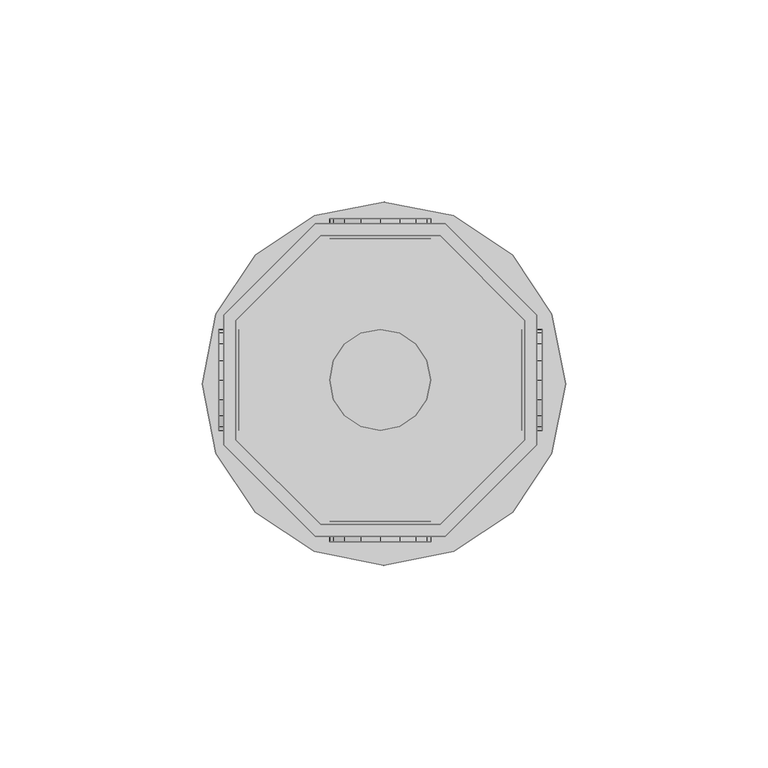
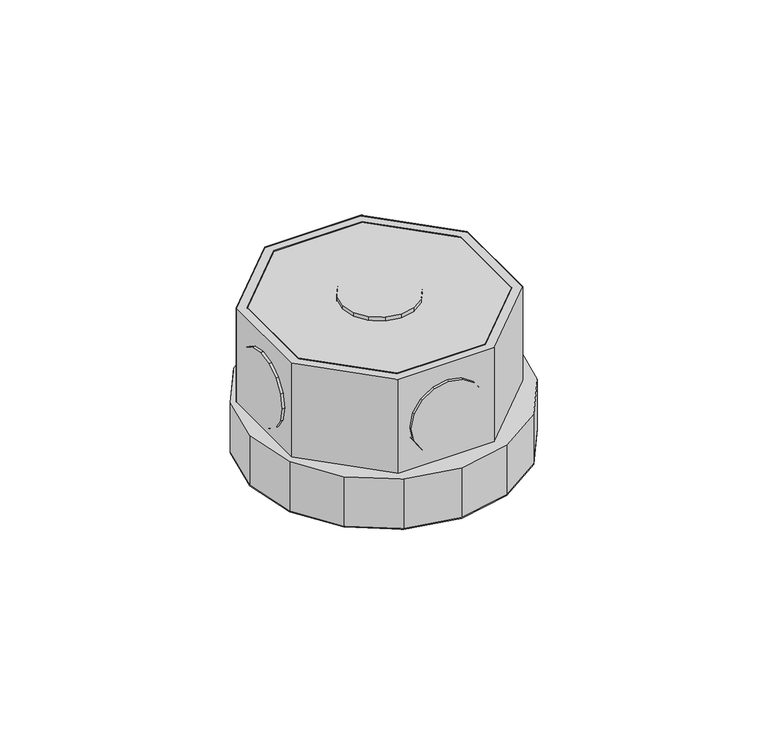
"""IFC4 building model written with IfcOpenShell, lengths in millimetres: light fixture geometry,  212862 :  212862."""

from ifc_helpers import new_model, si_unit, origin, place, context, project, spatial, triangles, source, transform, mapped, element, save


def light_fixture_f4f31ad3(model_context):
    return source(origin(), model_context, "Body", "Tessellation", [
        triangles([(24994.9999146, 9491.2497345, 2924.5999741), (24965.3993958, 9491.2497345, 2975.400071), (24965.3993958, 9491.2497345, 2924.5999741), (24994.9999146, 9491.2497345, 2975.400071), (24996.1998413, 9416.7502121, 2924.5999741), (24964.0994751, 9416.7502121, 2975.400071), (24964.0994751, 9416.7502121, 2924.5999741), (24996.1998413, 9416.7502121, 2975.400071), (24944.4006775, 9470.2498535, 2975.400071), (24944.4006775, 9470.2498535, 2924.5999741), (25018.9007813, 9439.4499893, 2924.5999741), (25018.9007813, 9439.4499893, 2975.400071), (24944.4006775, 9440.6499161, 2975.400071), (24944.4006775, 9440.6499161, 2924.5999741), (25018.9007813, 9471.5497742, 2924.5999741), (25018.9007813, 9471.5497742, 2975.400071), (24965.3993958, 9419.750029, 2975.400071), (24965.3993958, 9419.750029, 2924.5999741), (24996.1998413, 9494.2501328, 2924.5999741), (24996.1998413, 9494.2501328, 2975.400071), (24994.9999146, 9419.750029, 2924.5999741), (24994.9999146, 9419.750029, 2975.400071), (24964.0994751, 9494.2501328, 2975.400071), (24964.0994751, 9494.2501328, 2924.5999741), (25015.9009644, 9440.6499161, 2924.5999741), (25015.9009644, 9440.6499161, 2975.400071), (24941.4008606, 9471.5497742, 2975.400071), (24941.4008606, 9471.5497742, 2924.5999741), (24941.4008606, 9439.4499893, 2975.400071), (25015.9009644, 9470.2498535, 2975.400071), (25015.9009644, 9470.2498535, 2924.5999741), (24941.4008606, 9439.4499893, 2924.5999741), (24944.4006775, 9440.6499161, 2972.3999634), (24965.3993958, 9419.750029, 2972.3999634), (24994.9999146, 9419.750029, 2972.3999634), (25015.9009644, 9440.6499161, 2972.3999634), (25015.9009644, 9470.2498535, 2972.3999634), (24994.9999146, 9491.2497345, 2972.3999634), (24965.3993958, 9491.2497345, 2972.3999634), (24944.4006775, 9470.2498535, 2972.3999634), (24941.4008606, 9471.5497742, 2942.4000504), (24964.0994751, 9494.2501328, 2942.4000504), (24996.1998413, 9494.2501328, 2942.4000504), (25018.9007813, 9471.5497742, 2942.4000504), (25018.9007813, 9439.4499893, 2942.4000504), (24996.1998413, 9416.7502121, 2942.4000504), (24964.0994751, 9416.7502121, 2942.4000504), (24941.4008606, 9439.4499893, 2942.4000504), (24963.7994934, 9413.0498566, 2942.4000504), (24939.5009766, 9437.3501175, 2942.4000504), (24949.2003845, 9422.7498459, 2942.4000504), (24936.0988586, 9454.5502304, 2942.4000504), (24939.5009766, 9471.8497559, 2942.4000504), (24949.2003845, 9486.4500275, 2942.4000504), (24963.7994934, 9496.1500168, 2942.4000504), (24981.1007629, 9499.5498093, 2942.4000504), (24998.2997131, 9496.1500168, 2942.4000504), (25022.6005554, 9471.8497559, 2942.4000504), (25012.9011475, 9486.4500275, 2942.4000504), (24981.1007629, 9409.5500702, 2942.4000504), (24998.2997131, 9413.0498566, 2942.4000504), (25012.9011475, 9422.7498459, 2942.4000504), (25022.6005554, 9437.3501175, 2942.4000504), (25026.1003418, 9454.5502304, 2942.4000504), (24939.5009766, 9437.3501175, 2924.5999741), (24963.7994934, 9413.0498566, 2924.5999741), (24949.2003845, 9422.7498459, 2924.5999741), (24936.0988586, 9454.5502304, 2924.5999741), (24939.5009766, 9471.8497559, 2924.5999741), (24949.2003845, 9486.4500275, 2924.5999741), (24963.7994934, 9496.1500168, 2924.5999741), (24981.1007629, 9499.5498093, 2924.5999741), (24998.2997131, 9496.1500168, 2924.5999741), (25022.6005554, 9471.8497559, 2924.5999741), (25012.9011475, 9486.4500275, 2924.5999741), (24981.1007629, 9409.5500702, 2924.5999741), (24998.2997131, 9413.0498566, 2924.5999741), (25012.9011475, 9422.7498459, 2924.5999741), (25022.6005554, 9437.3501175, 2924.5999741), (25026.1003418, 9454.5502304, 2924.5999741), (24968.5992004, 9495.4500595, 2952.6000092), (24975.4011108, 9495.4500595, 2945.9001274), (24971.2990356, 9495.4500595, 2948.5999626), (24967.6992554, 9495.4500595, 2957.4000069), (24980.2008179, 9495.4500595, 2944.8998978), (24968.5992004, 9495.4500595, 2962.2000046), (24985.0005249, 9495.4500595, 2945.9001274), (24971.2990356, 9495.4500595, 2966.2000511), (24989.0002808, 9495.4500595, 2948.5999626), (24975.4011108, 9495.4500595, 2968.8998863), (24991.700116, 9495.4500595, 2952.6000092), (24980.2008179, 9495.4500595, 2969.900116), (24992.7000549, 9495.4500595, 2957.4000069), (24985.0005249, 9495.4500595, 2968.8998863), (24991.700116, 9495.4500595, 2962.2000046), (24989.0002808, 9495.4500595, 2966.2000511), (24975.4011108, 9490.4497833, 2945.9001274), (24968.5992004, 9490.4497833, 2952.6000092), (24971.2990356, 9490.4497833, 2948.5999626), (24980.2008179, 9490.4497833, 2944.8998978), (24967.6992554, 9490.4497833, 2957.4000069), (24985.0005249, 9490.4497833, 2945.9001274), (24968.5992004, 9490.4497833, 2962.2000046), (24989.0002808, 9490.4497833, 2948.5999626), (24971.2990356, 9490.4497833, 2966.2000511), (24975.4011108, 9490.4497833, 2968.8998863), (24991.700116, 9490.4497833, 2952.6000092), (24980.2008179, 9490.4497833, 2969.900116), (24992.7000549, 9490.4497833, 2957.4000069), (24985.0005249, 9490.4497833, 2968.8998863), (24991.700116, 9490.4497833, 2962.2000046), (24989.0002808, 9490.4497833, 2966.2000511), (24968.5992004, 9420.4499863, 2952.6000092), (24975.4011108, 9420.4499863, 2945.9001274), (24971.2990356, 9420.4499863, 2948.5999626), (24967.6992554, 9420.4499863, 2957.4000069), (24980.2008179, 9420.4499863, 2944.8998978), (24968.5992004, 9420.4499863, 2962.2000046), (24985.0005249, 9420.4499863, 2945.9001274), (24971.2990356, 9420.4499863, 2966.2000511), (24989.0002808, 9420.4499863, 2948.5999626), (24975.4011108, 9420.4499863, 2968.8998863), (24991.700116, 9420.4499863, 2952.6000092), (24980.2008179, 9420.4499863, 2969.900116), (24992.7000549, 9420.4499863, 2957.4000069), (24985.0005249, 9420.4499863, 2968.8998863), (24991.700116, 9420.4499863, 2962.2000046), (24989.0002808, 9420.4499863, 2966.2000511), (24975.4011108, 9415.4497101, 2945.9001274), (24968.5992004, 9415.4497101, 2952.6000092), (24971.2990356, 9415.4497101, 2948.5999626), (24980.2008179, 9415.4497101, 2944.8998978), (24967.6992554, 9415.4497101, 2957.4000069), (24985.0005249, 9415.4497101, 2945.9001274), (24968.5992004, 9415.4497101, 2962.2000046), (24989.0002808, 9415.4497101, 2948.5999626), (24971.2990356, 9415.4497101, 2966.2000511), (24975.4011108, 9415.4497101, 2968.8998863), (24991.700116, 9415.4497101, 2952.6000092), (24980.2008179, 9415.4497101, 2969.900116), (24992.7000549, 9415.4497101, 2957.4000069), (24985.0005249, 9415.4497101, 2968.8998863), (24991.700116, 9415.4497101, 2962.2000046), (24989.0002808, 9415.4497101, 2966.2000511), (24945.2006287, 9450.6498871, 2945.9001274), (24945.2006287, 9443.9497147, 2952.6000092), (24945.2006287, 9446.6501312, 2948.5999626), (24945.2006287, 9455.4501755, 2944.8998978), (24945.2006287, 9442.9497757, 2957.4000069), (24945.2006287, 9460.2498825, 2945.9001274), (24945.2006287, 9443.9497147, 2962.2000046), (24945.2006287, 9464.3502136, 2948.5999626), (24945.2006287, 9446.6501312, 2966.2000511), (24945.2006287, 9450.6498871, 2968.8998863), (24945.2006287, 9467.0500488, 2952.6000092), (24945.2006287, 9455.4501755, 2969.900116), (24945.2006287, 9467.9499939, 2957.4000069), (24945.2006287, 9460.2498825, 2968.8998863), (24945.2006287, 9467.0500488, 2962.2000046), (24945.2006287, 9464.3502136, 2966.2000511), (24940.2009338, 9443.9497147, 2952.6000092), (24940.2009338, 9450.6498871, 2945.9001274), (24940.2009338, 9446.6501312, 2948.5999626), (24940.2009338, 9442.9497757, 2957.4000069), (24940.2009338, 9455.4501755, 2944.8998978), (24940.2009338, 9443.9497147, 2962.2000046), (24940.2009338, 9460.2498825, 2945.9001274), (24940.2009338, 9446.6501312, 2966.2000511), (24940.2009338, 9464.3502136, 2948.5999626), (24940.2009338, 9450.6498871, 2968.8998863), (24940.2009338, 9467.0500488, 2952.6000092), (24940.2009338, 9455.4501755, 2969.900116), (24940.2009338, 9467.9499939, 2957.4000069), (24940.2009338, 9460.2498825, 2968.8998863), (24940.2009338, 9467.0500488, 2962.2000046), (24940.2009338, 9464.3502136, 2966.2000511), (25020.2007019, 9450.6498871, 2945.9001274), (25020.2007019, 9443.9497147, 2952.6000092), (25020.2007019, 9446.6501312, 2948.5999626), (25020.2007019, 9455.4501755, 2944.8998978), (25020.2007019, 9442.9497757, 2957.4000069), (25020.2007019, 9460.2498825, 2945.9001274), (25020.2007019, 9443.9497147, 2962.2000046), (25020.2007019, 9464.3502136, 2948.5999626), (25020.2007019, 9446.6501312, 2966.2000511), (25020.2007019, 9450.6498871, 2968.8998863), (25020.2007019, 9467.0500488, 2952.6000092), (25020.2007019, 9455.4501755, 2969.900116), (25020.2007019, 9467.9499939, 2957.4000069), (25020.2007019, 9460.2498825, 2968.8998863), (25020.2007019, 9467.0500488, 2962.2000046), (25020.2007019, 9464.3502136, 2966.2000511), (25015.2010071, 9443.9497147, 2952.6000092), (25015.2010071, 9450.6498871, 2945.9001274), (25015.2010071, 9446.6501312, 2948.5999626), (25015.2010071, 9442.9497757, 2957.4000069), (25015.2010071, 9455.4501755, 2944.8998978), (25015.2010071, 9443.9497147, 2962.2000046), (25015.2010071, 9460.2498825, 2945.9001274), (25015.2010071, 9446.6501312, 2966.2000511), (25015.2010071, 9464.3502136, 2948.5999626), (25015.2010071, 9450.6498871, 2968.8998863), (25015.2010071, 9467.0500488, 2952.6000092), (25015.2010071, 9455.4501755, 2969.900116), (25015.2010071, 9467.9499939, 2957.4000069), (25015.2010071, 9460.2498825, 2968.8998863), (25015.2010071, 9467.0500488, 2962.2000046), (25015.2010071, 9464.3502136, 2966.2000511), (24975.4011108, 9443.9497147, 2976.9999733), (24968.5992004, 9450.6498871, 2976.9999733), (24971.2990356, 9446.6501312, 2976.9999733), (24967.6992554, 9455.4501755, 2976.9999733), (24980.2008179, 9442.9497757, 2976.9999733), (24968.5992004, 9460.2498825, 2976.9999733), (24985.0005249, 9443.9497147, 2976.9999733), (24971.2990356, 9464.3502136, 2976.9999733), (24989.0002808, 9446.6501312, 2976.9999733), (24975.4011108, 9467.0500488, 2976.9999733), (24991.700116, 9450.6498871, 2976.9999733), (24980.2008179, 9467.9499939, 2976.9999733), (24992.7000549, 9455.4501755, 2976.9999733), (24985.0005249, 9467.0500488, 2976.9999733), (24991.700116, 9460.2498825, 2976.9999733), (24989.0002808, 9464.3502136, 2976.9999733), (24968.5992004, 9450.6498871, 2971.9999878), (24975.4011108, 9443.9497147, 2971.9999878), (24971.2990356, 9446.6501312, 2971.9999878), (24967.6992554, 9455.4501755, 2971.9999878), (24980.2008179, 9442.9497757, 2971.9999878), (24968.5992004, 9460.2498825, 2971.9999878), (24985.0005249, 9443.9497147, 2971.9999878), (24971.2990356, 9464.3502136, 2971.9999878), (24989.0002808, 9446.6501312, 2971.9999878), (24975.4011108, 9467.0500488, 2971.9999878), (24991.700116, 9450.6498871, 2971.9999878), (24980.2008179, 9467.9499939, 2971.9999878), (24992.7000549, 9455.4501755, 2971.9999878), (24985.0005249, 9467.0500488, 2971.9999878), (24991.700116, 9460.2498825, 2971.9999878), (24989.0002808, 9464.3502136, 2971.9999878)], [[1, 2, 3], [2, 1, 4], [5, 6, 7], [6, 5, 8], [3, 9, 10], [9, 3, 2], [11, 8, 5], [8, 11, 12], [10, 13, 14], [13, 10, 9], [15, 12, 11], [12, 15, 16], [14, 17, 18], [17, 14, 13], [19, 16, 15], [16, 19, 20], [17, 21, 18], [21, 17, 22], [23, 19, 24], [19, 23, 20], [22, 25, 21], [25, 22, 26], [27, 24, 28], [24, 27, 23], [6, 13, 29], [29, 13, 27], [27, 13, 9], [27, 9, 23], [23, 9, 2], [23, 2, 4], [23, 4, 20], [20, 4, 30], [8, 17, 6], [6, 17, 13], [17, 8, 22], [12, 22, 8], [22, 12, 26], [30, 26, 12], [16, 30, 12], [20, 30, 16], [30, 1, 31], [1, 30, 4], [6, 32, 7], [32, 6, 29], [32, 14, 7], [28, 14, 32], [14, 28, 10], [24, 10, 28], [10, 24, 3], [1, 3, 24], [19, 1, 24], [31, 1, 19], [7, 18, 5], [14, 18, 7], [5, 18, 21], [5, 21, 11], [11, 21, 25], [11, 25, 31], [11, 31, 15], [15, 31, 19], [26, 31, 25], [31, 26, 30], [29, 28, 32], [28, 29, 27], [17, 33, 34], [33, 17, 13], [35, 17, 34], [17, 35, 22], [36, 22, 35], [22, 36, 26], [37, 26, 36], [26, 37, 30], [38, 30, 37], [30, 38, 4], [2, 38, 39], [38, 2, 4], [17, 9, 13], [9, 17, 22], [9, 22, 2], [2, 22, 26], [2, 26, 4], [4, 26, 30], [13, 40, 33], [40, 13, 9], [40, 34, 33], [35, 34, 40], [35, 40, 39], [35, 39, 36], [36, 39, 38], [36, 38, 37], [9, 39, 40], [39, 9, 2], [24, 41, 28], [41, 24, 42], [19, 42, 24], [42, 19, 43], [44, 19, 15], [19, 44, 43], [45, 15, 11], [15, 45, 44], [46, 11, 5], [11, 46, 45], [47, 5, 7], [5, 47, 46], [32, 47, 7], [47, 32, 48], [28, 48, 32], [48, 28, 41], [49, 50, 51], [48, 50, 49], [50, 48, 52], [41, 52, 48], [52, 41, 53], [53, 41, 54], [42, 54, 41], [54, 42, 55], [55, 42, 43], [55, 43, 56], [56, 43, 57], [57, 43, 44], [57, 44, 58], [57, 58, 59], [47, 49, 60], [49, 47, 48], [47, 60, 46], [61, 46, 60], [46, 61, 62], [46, 62, 45], [45, 62, 63], [44, 45, 63], [44, 63, 64], [44, 64, 58], [65, 66, 67], [66, 65, 32], [68, 32, 65], [32, 68, 28], [28, 68, 69], [70, 28, 69], [28, 70, 24], [71, 24, 70], [19, 24, 71], [19, 71, 72], [73, 19, 72], [19, 73, 15], [74, 15, 73], [74, 73, 75], [76, 66, 7], [32, 7, 66], [5, 76, 7], [76, 5, 77], [77, 5, 78], [11, 78, 5], [78, 11, 79], [79, 11, 15], [79, 15, 80], [80, 15, 74], [57, 75, 73], [75, 57, 59], [56, 73, 72], [73, 56, 57], [55, 72, 71], [72, 55, 56], [54, 71, 70], [71, 54, 55], [53, 70, 69], [70, 53, 54], [52, 69, 68], [69, 52, 53], [50, 68, 65], [68, 50, 52], [51, 65, 67], [65, 51, 50], [66, 51, 67], [51, 66, 49], [76, 49, 66], [49, 76, 60], [77, 60, 76], [60, 77, 61], [78, 61, 77], [61, 78, 62], [79, 62, 78], [62, 79, 63], [80, 63, 79], [63, 80, 64], [75, 58, 74], [58, 75, 59], [74, 64, 80], [64, 74, 58], [81, 82, 83], [82, 81, 84], [85, 82, 84], [85, 84, 86], [87, 85, 86], [87, 86, 88], [87, 88, 89], [89, 88, 90], [89, 90, 91], [91, 90, 92], [91, 92, 93], [93, 92, 94], [93, 94, 95], [95, 94, 96], [97, 98, 99], [98, 97, 100], [101, 98, 100], [101, 100, 102], [103, 101, 102], [103, 102, 104], [103, 104, 105], [105, 104, 106], [106, 104, 107], [106, 107, 108], [108, 107, 109], [108, 109, 110], [110, 109, 111], [110, 111, 112], [87, 104, 102], [104, 87, 89], [85, 102, 100], [102, 85, 87], [82, 100, 97], [100, 82, 85], [83, 97, 99], [97, 83, 82], [98, 83, 99], [83, 98, 81], [101, 81, 98], [81, 101, 84], [103, 84, 101], [84, 103, 86], [105, 86, 103], [86, 105, 88], [106, 88, 105], [88, 106, 90], [108, 90, 106], [90, 108, 92], [110, 92, 108], [92, 110, 94], [112, 94, 110], [94, 112, 96], [95, 112, 111], [112, 95, 96], [93, 111, 109], [111, 93, 95], [89, 107, 104], [107, 89, 91], [91, 109, 107], [109, 91, 93], [113, 114, 115], [114, 113, 116], [117, 114, 116], [117, 116, 118], [119, 117, 118], [119, 118, 120], [119, 120, 121], [121, 120, 122], [121, 122, 123], [123, 122, 124], [123, 124, 125], [125, 124, 126], [125, 126, 127], [127, 126, 128], [129, 130, 131], [130, 129, 132], [133, 130, 132], [133, 132, 134], [135, 133, 134], [135, 134, 136], [135, 136, 137], [137, 136, 138], [138, 136, 139], [138, 139, 140], [140, 139, 141], [140, 141, 142], [142, 141, 143], [142, 143, 144], [119, 136, 134], [136, 119, 121], [117, 134, 132], [134, 117, 119], [114, 132, 129], [132, 114, 117], [115, 129, 131], [129, 115, 114], [130, 115, 131], [115, 130, 113], [133, 113, 130], [113, 133, 116], [135, 116, 133], [116, 135, 118], [137, 118, 135], [118, 137, 120], [138, 120, 137], [120, 138, 122], [140, 122, 138], [122, 140, 124], [142, 124, 140], [124, 142, 126], [144, 126, 142], [126, 144, 128], [127, 144, 143], [144, 127, 128], [125, 143, 141], [143, 125, 127], [121, 139, 136], [139, 121, 123], [123, 141, 139], [141, 123, 125], [145, 146, 147], [146, 145, 148], [149, 146, 148], [149, 148, 150], [151, 149, 150], [151, 150, 152], [151, 152, 153], [153, 152, 154], [154, 152, 155], [154, 155, 156], [156, 155, 157], [156, 157, 158], [158, 157, 159], [158, 159, 160], [161, 162, 163], [162, 161, 164], [165, 162, 164], [165, 164, 166], [167, 165, 166], [167, 166, 168], [169, 167, 168], [169, 168, 170], [169, 170, 171], [171, 170, 172], [171, 172, 173], [173, 172, 174], [173, 174, 175], [175, 174, 176], [158, 176, 174], [176, 158, 160], [156, 174, 172], [174, 156, 158], [154, 172, 170], [172, 154, 156], [153, 170, 168], [170, 153, 154], [151, 168, 166], [168, 151, 153], [149, 166, 164], [166, 149, 151], [146, 164, 161], [164, 146, 149], [147, 161, 163], [161, 147, 146], [162, 147, 163], [147, 162, 145], [165, 145, 162], [145, 165, 148], [167, 148, 165], [148, 167, 150], [169, 150, 167], [150, 169, 152], [171, 152, 169], [152, 171, 155], [173, 155, 171], [155, 173, 157], [176, 159, 175], [159, 176, 160], [175, 157, 173], [157, 175, 159], [177, 178, 179], [178, 177, 180], [181, 178, 180], [181, 180, 182], [183, 181, 182], [183, 182, 184], [183, 184, 185], [185, 184, 186], [186, 184, 187], [186, 187, 188], [188, 187, 189], [188, 189, 190], [190, 189, 191], [190, 191, 192], [193, 194, 195], [194, 193, 196], [197, 194, 196], [197, 196, 198], [199, 197, 198], [199, 198, 200], [201, 199, 200], [201, 200, 202], [201, 202, 203], [203, 202, 204], [203, 204, 205], [205, 204, 206], [205, 206, 207], [207, 206, 208], [190, 208, 206], [208, 190, 192], [188, 206, 204], [206, 188, 190], [186, 204, 202], [204, 186, 188], [185, 202, 200], [202, 185, 186], [183, 200, 198], [200, 183, 185], [181, 198, 196], [198, 181, 183], [178, 196, 193], [196, 178, 181], [179, 193, 195], [193, 179, 178], [194, 179, 195], [179, 194, 177], [197, 177, 194], [177, 197, 180], [199, 180, 197], [180, 199, 182], [201, 182, 199], [182, 201, 184], [203, 184, 201], [184, 203, 187], [205, 187, 203], [187, 205, 189], [208, 191, 207], [191, 208, 192], [207, 189, 205], [189, 207, 191], [209, 210, 211], [212, 210, 209], [212, 209, 213], [214, 212, 213], [214, 213, 215], [216, 214, 215], [216, 215, 217], [216, 217, 218], [218, 217, 219], [218, 219, 220], [220, 219, 221], [220, 221, 222], [222, 221, 223], [222, 223, 224], [225, 226, 227], [226, 225, 228], [229, 226, 228], [229, 228, 230], [231, 229, 230], [231, 230, 232], [231, 232, 233], [233, 232, 234], [233, 234, 235], [235, 234, 236], [235, 236, 237], [237, 236, 238], [237, 238, 239], [239, 238, 240], [222, 240, 238], [240, 222, 224], [220, 238, 236], [238, 220, 222], [218, 236, 234], [236, 218, 220], [216, 234, 232], [234, 216, 218], [214, 232, 230], [232, 214, 216], [212, 230, 228], [230, 212, 214], [210, 228, 225], [228, 210, 212], [211, 225, 227], [225, 211, 210], [226, 211, 227], [211, 226, 209], [229, 209, 226], [209, 229, 213], [231, 213, 229], [213, 231, 215], [233, 215, 231], [215, 233, 217], [235, 217, 233], [217, 235, 219], [237, 219, 235], [219, 237, 221], [240, 223, 239], [223, 240, 224], [239, 221, 237], [221, 239, 223]], closed=False),
    ])


if __name__ == "__main__":
    model = new_model("IFC4")
    model_context = context("Model", 3, world=origin())
    ifc_project = project(units=[si_unit("LENGTHUNIT", "METRE", prefix="MILLI")], contexts=[model_context])
    site = spatial("IfcSite", under=ifc_project)
    building = spatial("IfcBuilding", under=site)
    placement = place(None, origin())
    light_fixture_shape = light_fixture_f4f31ad3(model_context)
    element("IfcLightFixture", 1, ObjectType=" 212862 :  212862", at=placement, inside=building, context=model_context, shape_type="MappedRepresentation", body=[
        mapped(light_fixture_shape, transform((0.0, 0.0, 0.0), x_axis=(1.0, 0.0, 0.0), y_axis=(0.0, 1.0, 0.0), z_axis=(0.0, 0.0, 1.0))),
    ])
    save(model, "model.ifc")
